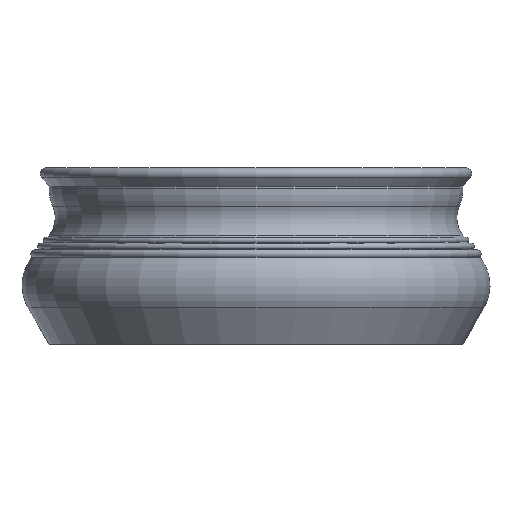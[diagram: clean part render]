
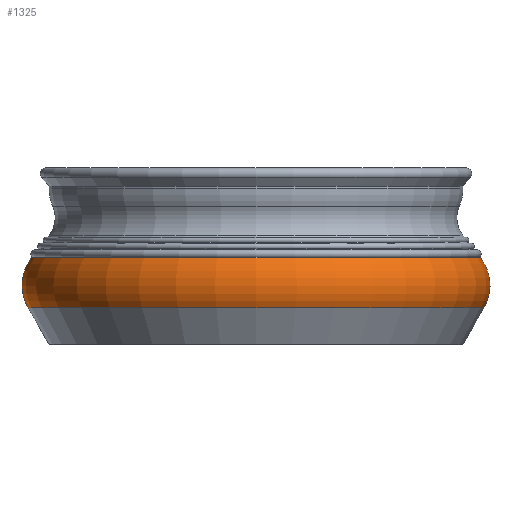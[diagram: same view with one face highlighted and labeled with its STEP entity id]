
A CAD part, front view. The second image highlights one B-rep face of the part: STEP entity #1325.
In plain terms, the highlighted toroidal (fillet/blend) face has major radius 160.901 mm and minor radius 38.099 mm.
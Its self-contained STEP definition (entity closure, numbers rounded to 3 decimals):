
#22=TOROIDAL_SURFACE('',#1505,160.901,38.099);
#166=FACE_OUTER_BOUND('',#284,.T.);
#284=EDGE_LOOP('',(#1208,#1209,#1210,#1211));
#526=CIRCLE('',#1467,193.883);
#549=CIRCLE('',#1506,190.889);
#550=CIRCLE('',#1507,38.099);
#653=VERTEX_POINT('',#2240);
#669=VERTEX_POINT('',#2303);
#818=EDGE_CURVE('',#653,#653,#526,.T.);
#849=EDGE_CURVE('',#669,#669,#549,.T.);
#850=EDGE_CURVE('',#669,#653,#550,.T.);
#1208=ORIENTED_EDGE('',*,*,#849,.F.);
#1209=ORIENTED_EDGE('',*,*,#850,.T.);
#1210=ORIENTED_EDGE('',*,*,#818,.T.);
#1211=ORIENTED_EDGE('',*,*,#850,.F.);
#1325=ADVANCED_FACE('',(#166),#22,.T.);
#1467=AXIS2_PLACEMENT_3D('',#2241,#1837,#1838);
#1505=AXIS2_PLACEMENT_3D('',#2302,#1921,#1922);
#1506=AXIS2_PLACEMENT_3D('',#2304,#1923,#1924);
#1507=AXIS2_PLACEMENT_3D('',#2305,#1925,#1926);
#1837=DIRECTION('center_axis',(0.,0.,1.));
#1838=DIRECTION('ref_axis',(1.,0.,0.));
#1921=DIRECTION('center_axis',(0.,0.,1.));
#1922=DIRECTION('ref_axis',(1.,0.,0.));
#1923=DIRECTION('center_axis',(0.,0.,1.));
#1924=DIRECTION('ref_axis',(1.,0.,0.));
#1925=DIRECTION('center_axis',(0.,-1.,0.));
#1926=DIRECTION('ref_axis',(-1.,0.,0.));
#2240=CARTESIAN_POINT('',(-193.883,0.,30.929));
#2241=CARTESIAN_POINT('Origin',(0.,0.,30.929));
#2302=CARTESIAN_POINT('Origin',(0.,0.,50.));
#2303=CARTESIAN_POINT('',(-190.889,0.,73.5));
#2304=CARTESIAN_POINT('Origin',(0.,0.,73.5));
#2305=CARTESIAN_POINT('Origin',(-160.901,0.,
50.));
